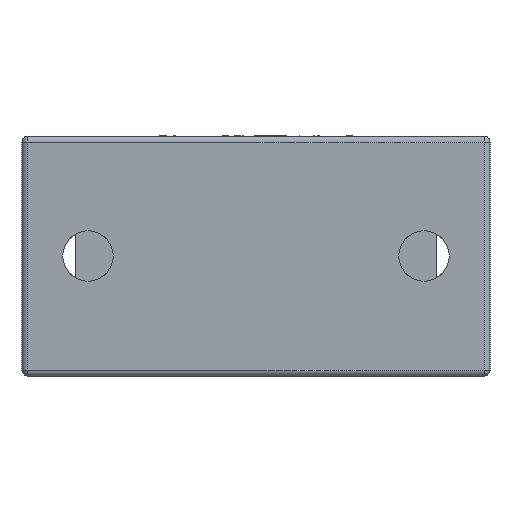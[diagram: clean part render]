
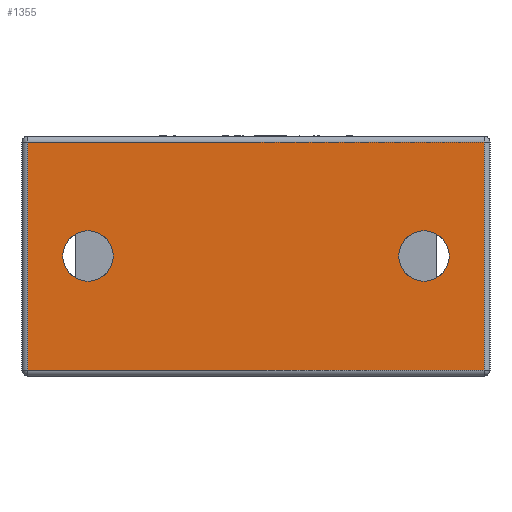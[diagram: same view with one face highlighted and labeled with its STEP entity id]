
A CAD part, front view. The second image highlights one B-rep face of the part: STEP entity #1355.
In plain terms, the highlighted planar face has unit normal (0, -1, 0).
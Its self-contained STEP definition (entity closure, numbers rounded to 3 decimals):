
#769 = EDGE_CURVE ( 'NONE', #770, #771, #4961, .T. ) ;
#770 = VERTEX_POINT ( 'NONE', #4957 ) ;
#771 = VERTEX_POINT ( 'NONE', #4956 ) ;
#806 = EDGE_CURVE ( 'NONE', #807, #808, #5047, .T. ) ;
#807 = VERTEX_POINT ( 'NONE', #5043 ) ;
#808 = VERTEX_POINT ( 'NONE', #5042 ) ;
#1341 = EDGE_LOOP ( 'NONE', ( #1342, #1343 ) ) ;
#1342 = ORIENTED_EDGE ( 'NONE', *, *, #769, .F. ) ;
#1343 = ORIENTED_EDGE ( 'NONE', *, *, #1344, .F. ) ;
#1344 = EDGE_CURVE ( 'NONE', #771, #770, #6619, .T. ) ;
#1355 = ADVANCED_FACE ( 'NONE', ( #6658, #6657, #6656 ), #6655, .F. ) ;
#1356 = EDGE_LOOP ( 'NONE', ( #1357, #1360, #1416, #1418 ) ) ;
#1357 = ORIENTED_EDGE ( 'NONE', *, *, #1358, .F. ) ;
#1358 = EDGE_CURVE ( 'NONE', #1359, #1374, #6653, .T. ) ;
#1359 = VERTEX_POINT ( 'NONE', #6646 ) ;
#1360 = ORIENTED_EDGE ( 'NONE', *, *, #1361, .F. ) ;
#1361 = EDGE_CURVE ( 'NONE', #1415, #1359, #6645, .T. ) ;
#1372 = EDGE_CURVE ( 'NONE', #1373, #1374, #6700, .T. ) ;
#1373 = VERTEX_POINT ( 'NONE', #6669 ) ;
#1374 = VERTEX_POINT ( 'NONE', #6668 ) ;
#1415 = VERTEX_POINT ( 'NONE', #6779 ) ;
#1416 = ORIENTED_EDGE ( 'NONE', *, *, #1417, .T. ) ;
#1417 = EDGE_CURVE ( 'NONE', #1415, #1373, #6778, .T. ) ;
#1418 = ORIENTED_EDGE ( 'NONE', *, *, #1372, .T. ) ;
#1419 = EDGE_LOOP ( 'NONE', ( #1420, #1422 ) ) ;
#1420 = ORIENTED_EDGE ( 'NONE', *, *, #1421, .T. ) ;
#1421 = EDGE_CURVE ( 'NONE', #808, #807, #6774, .T. ) ;
#1422 = ORIENTED_EDGE ( 'NONE', *, *, #806, .T. ) ;
#4898 = CARTESIAN_POINT ( 'NONE',  ( 14., -18.8, 0. ) ) ;
#4956 = CARTESIAN_POINT ( 'NONE',  ( 14., -18.8, -2.1 ) ) ;
#4957 = CARTESIAN_POINT ( 'NONE',  ( 14., -18.8, 2.1 ) ) ;
#4958 = DIRECTION ( 'NONE',  ( 0., 0., 1. ) ) ;
#4959 = DIRECTION ( 'NONE',  ( 0., -1., 0. ) ) ;
#4960 = AXIS2_PLACEMENT_3D ( 'NONE', #4898, #4959, #4958 ) ;
#4961 = CIRCLE ( 'NONE', #4960, 2.1 ) ;
#5039 = CARTESIAN_POINT ( 'NONE',  ( -14., -18.8, 0. ) ) ;
#5042 = CARTESIAN_POINT ( 'NONE',  ( -14., -18.8, 2.1 ) ) ;
#5043 = CARTESIAN_POINT ( 'NONE',  ( -14., -18.8, -2.1 ) ) ;
#5044 = DIRECTION ( 'NONE',  ( 0., 0., 1. ) ) ;
#5045 = DIRECTION ( 'NONE',  ( 0., 1., 0. ) ) ;
#5046 = AXIS2_PLACEMENT_3D ( 'NONE', #5039, #5045, #5044 ) ;
#5047 = CIRCLE ( 'NONE', #5046, 2.1 ) ;
#6615 = DIRECTION ( 'NONE',  ( 0., 0., 1. ) ) ;
#6616 = DIRECTION ( 'NONE',  ( 0., -1., 0. ) ) ;
#6617 = CARTESIAN_POINT ( 'NONE',  ( 14., -18.8, 0. ) ) ;
#6618 = AXIS2_PLACEMENT_3D ( 'NONE', #6617, #6616, #6615 ) ;
#6619 = CIRCLE ( 'NONE', #6618, 2.1 ) ;
#6642 = DIRECTION ( 'NONE',  ( 0., 0., -1. ) ) ;
#6643 = VECTOR ( 'NONE', #6642, 1000. ) ;
#6644 = CARTESIAN_POINT ( 'NONE',  ( 19., -18.8, 10. ) ) ;
#6645 = LINE ( 'NONE', #6644, #6643 ) ;
#6646 = CARTESIAN_POINT ( 'NONE',  ( 19., -18.8, -9.5 ) ) ;
#6647 = DIRECTION ( 'NONE',  ( -1., 0., 0. ) ) ;
#6648 = VECTOR ( 'NONE', #6647, 1000. ) ;
#6649 = CARTESIAN_POINT ( 'NONE',  ( -19., -18.8, -9.5 ) ) ;
#6650 = DIRECTION ( 'NONE',  ( 0., 0., 1. ) ) ;
#6651 = DIRECTION ( 'NONE',  ( 0., 1., 0. ) ) ;
#6652 = AXIS2_PLACEMENT_3D ( 'NONE', #6654, #6651, #6650 ) ;
#6653 = LINE ( 'NONE', #6649, #6648 ) ;
#6654 = CARTESIAN_POINT ( 'NONE',  ( 0., -18.8, 10. ) ) ;
#6655 = PLANE ( 'NONE',  #6652 ) ;
#6656 = FACE_BOUND ( 'NONE', #1341, .T. ) ;
#6657 = FACE_BOUND ( 'NONE', #1419, .T. ) ;
#6658 = FACE_OUTER_BOUND ( 'NONE', #1356, .T. ) ;
#6668 = CARTESIAN_POINT ( 'NONE',  ( -19., -18.8, -9.5 ) ) ;
#6669 = CARTESIAN_POINT ( 'NONE',  ( -19., -18.8, 9.5 ) ) ;
#6670 = DIRECTION ( 'NONE',  ( 0., 0., -1. ) ) ;
#6671 = VECTOR ( 'NONE', #6670, 1000. ) ;
#6672 = CARTESIAN_POINT ( 'NONE',  ( -19., -18.8, 10. ) ) ;
#6700 = LINE ( 'NONE', #6672, #6671 ) ;
#6770 = DIRECTION ( 'NONE',  ( 0., 0., 1. ) ) ;
#6771 = DIRECTION ( 'NONE',  ( 0., 1., 0. ) ) ;
#6772 = CARTESIAN_POINT ( 'NONE',  ( -14., -18.8, 0. ) ) ;
#6773 = AXIS2_PLACEMENT_3D ( 'NONE', #6772, #6771, #6770 ) ;
#6774 = CIRCLE ( 'NONE', #6773, 2.1 ) ;
#6775 = DIRECTION ( 'NONE',  ( -1., 0., 0. ) ) ;
#6776 = VECTOR ( 'NONE', #6775, 1000. ) ;
#6777 = CARTESIAN_POINT ( 'NONE',  ( -19., -18.8, 9.5 ) ) ;
#6778 = LINE ( 'NONE', #6777, #6776 ) ;
#6779 = CARTESIAN_POINT ( 'NONE',  ( 19., -18.8, 9.5 ) ) ;
